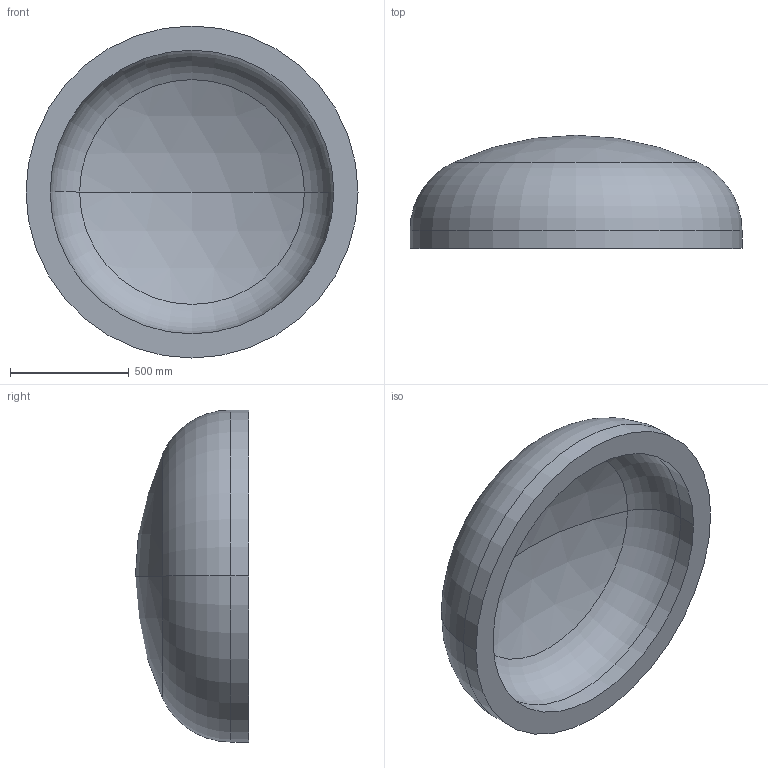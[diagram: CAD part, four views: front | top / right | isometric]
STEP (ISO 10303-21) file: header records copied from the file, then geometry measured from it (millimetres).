
FILE_DESCRIPTION (( 'STEP AP203' ), '1' );
FILE_NAME ('DIN 28013 Korbbogenform_-_Boden DIN 28013 - 1400 x 75 - I - s=102.step', '2016-07-01T10:29:22', ( '' ), ( '' ), 'SwSTEP 2.0', 'SolidWorks 2013', '' );
FILE_SCHEMA (( 'CONFIG_CONTROL_DESIGN' ));
Length unit declared in the file: millimetre
Products named in the file (1): DIN 28013 Korbbogenform_-_Boden DIN 28013 - 1400 x 75 - I - s=102
Bounding box: 1400 x 477.04 x 1400 mm (x, y, z)
Volume: 229443213.6 mm3; surface area: 4936609.9 mm2
Topology: 1 solids, 1 shells, 13 faces, 24 edges, 14 vertices
Faces by surface type: torus 4, cylinder 4, sphere 4, plane 1
Entity records: 407 total; most frequent: DIRECTION 72, CARTESIAN_POINT 52, ORIENTED_EDGE 48, AXIS2_PLACEMENT_3D 34, EDGE_CURVE 24, CIRCLE 20, EDGE_LOOP 14, VERTEX_POINT 14
